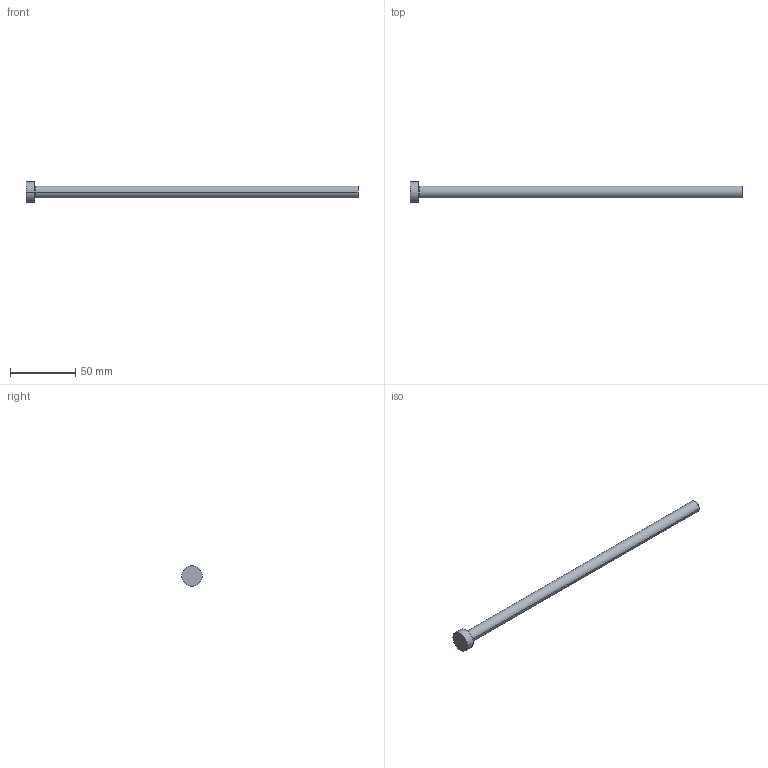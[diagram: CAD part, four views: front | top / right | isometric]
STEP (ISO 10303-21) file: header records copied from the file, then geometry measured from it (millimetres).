
FILE_DESCRIPTION (( 'STEP AP214' ), '1' );
FILE_NAME ('P24-10.STEP', '2020-03-12T09:50:45', ( '' ), ( '' ), 'SwSTEP 2.0', 'SolidWorks 2018', '' );
FILE_SCHEMA (( 'AUTOMOTIVE_DESIGN' ));
Length unit declared in the file: inch
Products named in the file (1): P24-10
Bounding box: 254 x 15.88 x 15.88 mm (x, y, z)
Volume: 17439.6 mm3; surface area: 7793.4 mm2
Topology: 1 solids, 1 shells, 13 faces, 24 edges, 14 vertices
Faces by surface type: cone 4, cylinder 4, plane 3, torus 2
Entity records: 366 total; most frequent: DIRECTION 68, CARTESIAN_POINT 52, ORIENTED_EDGE 48, AXIS2_PLACEMENT_3D 30, EDGE_CURVE 24, CIRCLE 16, EDGE_LOOP 14, VERTEX_POINT 14
